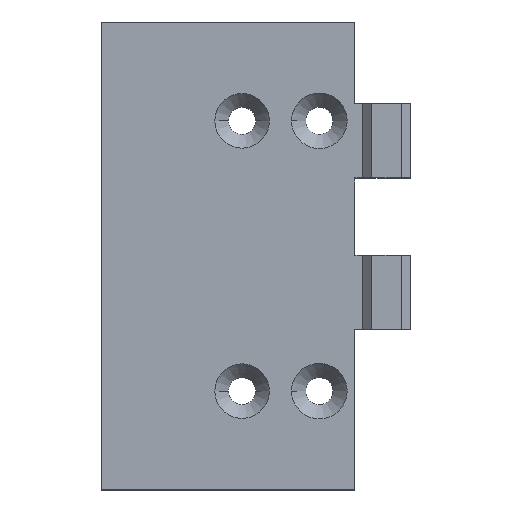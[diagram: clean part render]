
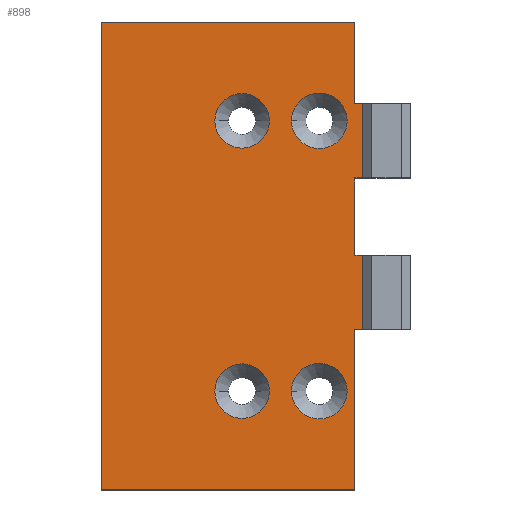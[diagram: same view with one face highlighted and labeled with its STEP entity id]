
A CAD part, top view. The second image highlights one B-rep face of the part: STEP entity #898.
In plain terms, the highlighted planar face has unit normal (0, 0, 1).
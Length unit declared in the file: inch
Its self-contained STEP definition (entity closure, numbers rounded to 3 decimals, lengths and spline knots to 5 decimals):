
#73=CARTESIAN_POINT('',(0.91,0.64,0.11));
#74=DIRECTION('',(0.,0.,1.));
#75=DIRECTION('',(-1.,0.,0.));
#76=AXIS2_PLACEMENT_3D('',#73,#74,#75);
#91=DIRECTION('',(0.,-1.,0.));
#92=VECTOR('',#91,0.53);
#93=CARTESIAN_POINT('',(1.64,3.03,0.11));
#94=LINE('',#93,#92);
#95=DIRECTION('',(-1.,0.,0.));
#96=VECTOR('',#95,0.05);
#97=CARTESIAN_POINT('',(1.69,2.5,0.11));
#98=LINE('',#97,#96);
#99=DIRECTION('',(0.,-1.,0.));
#100=VECTOR('',#99,0.48);
#101=CARTESIAN_POINT('',(1.69,2.5,0.11));
#102=LINE('',#101,#100);
#103=DIRECTION('',(-1.,0.,0.));
#104=VECTOR('',#103,0.05);
#105=CARTESIAN_POINT('',(1.69,2.02,0.11));
#106=LINE('',#105,#104);
#107=DIRECTION('',(0.,-1.,0.));
#108=VECTOR('',#107,0.5);
#109=CARTESIAN_POINT('',(1.64,2.02,0.11));
#110=LINE('',#109,#108);
#111=DIRECTION('',(-1.,0.,0.));
#112=VECTOR('',#111,0.05);
#113=CARTESIAN_POINT('',(1.69,1.52,0.11));
#114=LINE('',#113,#112);
#115=DIRECTION('',(0.,-1.,0.));
#116=VECTOR('',#115,0.48);
#117=CARTESIAN_POINT('',(1.69,1.52,0.11));
#118=LINE('',#117,#116);
#119=DIRECTION('',(-1.,0.,0.));
#120=VECTOR('',#119,0.05);
#121=CARTESIAN_POINT('',(1.69,1.04,0.11));
#122=LINE('',#121,#120);
#123=DIRECTION('',(0.,1.,0.));
#124=VECTOR('',#123,1.04);
#125=CARTESIAN_POINT('',(1.64,0.,0.11));
#126=LINE('',#125,#124);
#127=CARTESIAN_POINT('',(0.91,0.64,0.11));
#128=DIRECTION('',(0.,0.,1.));
#129=DIRECTION('',(1.,0.,0.));
#130=AXIS2_PLACEMENT_3D('',#127,#128,#129);
#137=CARTESIAN_POINT('',(0.91,2.39,0.11));
#138=DIRECTION('',(0.,0.,1.));
#139=DIRECTION('',(1.,0.,0.));
#140=AXIS2_PLACEMENT_3D('',#137,#138,#139);
#147=CARTESIAN_POINT('',(0.91,2.39,0.11));
#148=DIRECTION('',(0.,0.,1.));
#149=DIRECTION('',(-1.,0.,0.));
#150=AXIS2_PLACEMENT_3D('',#147,#148,#149);
#173=CARTESIAN_POINT('',(1.41,0.64,0.11));
#174=DIRECTION('',(0.,0.,1.));
#175=DIRECTION('',(1.,0.,0.));
#176=AXIS2_PLACEMENT_3D('',#173,#174,#175);
#183=CARTESIAN_POINT('',(1.41,0.64,0.11));
#184=DIRECTION('',(0.,0.,1.));
#185=DIRECTION('',(-1.,0.,0.));
#186=AXIS2_PLACEMENT_3D('',#183,#184,#185);
#209=CARTESIAN_POINT('',(1.41,2.39,0.11));
#210=DIRECTION('',(0.,0.,1.));
#211=DIRECTION('',(1.,0.,0.));
#212=AXIS2_PLACEMENT_3D('',#209,#210,#211);
#219=CARTESIAN_POINT('',(1.41,2.39,0.11));
#220=DIRECTION('',(0.,0.,1.));
#221=DIRECTION('',(-1.,0.,0.));
#222=AXIS2_PLACEMENT_3D('',#219,#220,#221);
#557=DIRECTION('',(1.,0.,0.));
#558=VECTOR('',#557,1.64);
#559=CARTESIAN_POINT('',(0.,0.,0.11));
#560=LINE('',#559,#558);
#561=DIRECTION('',(0.,-1.,0.));
#562=VECTOR('',#561,3.03);
#563=CARTESIAN_POINT('',(0.,3.03,0.11));
#564=LINE('',#563,#562);
#573=DIRECTION('',(1.,0.,0.));
#574=VECTOR('',#573,1.64);
#575=CARTESIAN_POINT('',(0.,3.03,0.11));
#576=LINE('',#575,#574);
#589=CARTESIAN_POINT('',(0.,3.03,0.11));
#590=CARTESIAN_POINT('',(0.,0.,0.11));
#591=VERTEX_POINT('',#589);
#592=VERTEX_POINT('',#590);
#593=CARTESIAN_POINT('',(1.0865,2.39,0.11));
#594=CARTESIAN_POINT('',(0.7335,2.39,0.11));
#595=VERTEX_POINT('',#593);
#596=VERTEX_POINT('',#594);
#601=CARTESIAN_POINT('',(1.0865,0.64,0.11));
#602=CARTESIAN_POINT('',(0.7335,0.64,0.11));
#603=VERTEX_POINT('',#601);
#604=VERTEX_POINT('',#602);
#625=CARTESIAN_POINT('',(1.59,2.39,0.11));
#626=CARTESIAN_POINT('',(1.23,2.39,0.11));
#627=VERTEX_POINT('',#625);
#628=VERTEX_POINT('',#626);
#633=CARTESIAN_POINT('',(1.59,0.64,0.11));
#634=CARTESIAN_POINT('',(1.23,0.64,0.11));
#635=VERTEX_POINT('',#633);
#636=VERTEX_POINT('',#634);
#701=CARTESIAN_POINT('',(1.64,0.,0.11));
#702=VERTEX_POINT('',#701);
#703=CARTESIAN_POINT('',(1.64,3.03,0.11));
#704=VERTEX_POINT('',#703);
#705=CARTESIAN_POINT('',(1.64,2.5,0.11));
#706=VERTEX_POINT('',#705);
#707=CARTESIAN_POINT('',(1.69,2.5,0.11));
#708=VERTEX_POINT('',#707);
#709=CARTESIAN_POINT('',(1.69,2.02,0.11));
#710=CARTESIAN_POINT('',(1.64,2.02,0.11));
#711=VERTEX_POINT('',#709);
#712=VERTEX_POINT('',#710);
#713=CARTESIAN_POINT('',(1.64,1.52,0.11));
#714=VERTEX_POINT('',#713);
#715=CARTESIAN_POINT('',(1.69,1.52,0.11));
#716=VERTEX_POINT('',#715);
#717=CARTESIAN_POINT('',(1.69,1.04,0.11));
#718=CARTESIAN_POINT('',(1.64,1.04,0.11));
#719=VERTEX_POINT('',#717);
#720=VERTEX_POINT('',#718);
#844=CARTESIAN_POINT('',(1.69,3.03,0.11));
#845=DIRECTION('',(0.,0.,-1.));
#846=DIRECTION('',(-1.,0.,0.));
#847=AXIS2_PLACEMENT_3D('',#844,#845,#846);
#848=PLANE('',#847);
#850=ORIENTED_EDGE('',*,*,#849,.T.);
#852=ORIENTED_EDGE('',*,*,#851,.F.);
#854=ORIENTED_EDGE('',*,*,#853,.T.);
#856=ORIENTED_EDGE('',*,*,#855,.T.);
#858=ORIENTED_EDGE('',*,*,#857,.T.);
#860=ORIENTED_EDGE('',*,*,#859,.F.);
#862=ORIENTED_EDGE('',*,*,#861,.T.);
#864=ORIENTED_EDGE('',*,*,#863,.T.);
#866=ORIENTED_EDGE('',*,*,#865,.F.);
#868=ORIENTED_EDGE('',*,*,#867,.F.);
#870=ORIENTED_EDGE('',*,*,#869,.F.);
#872=ORIENTED_EDGE('',*,*,#871,.T.);
#873=EDGE_LOOP('',(#850,#852,#854,#856,#858,#860,#862,#864,#866,#868,#870,
#872));
#874=FACE_OUTER_BOUND('',#873,.F.);
#876=ORIENTED_EDGE('',*,*,#875,.T.);
#878=ORIENTED_EDGE('',*,*,#877,.T.);
#879=EDGE_LOOP('',(#876,#878));
#880=FACE_BOUND('',#879,.F.);
#882=ORIENTED_EDGE('',*,*,#881,.T.);
#884=ORIENTED_EDGE('',*,*,#883,.T.);
#885=EDGE_LOOP('',(#882,#884));
#886=FACE_BOUND('',#885,.F.);
#888=ORIENTED_EDGE('',*,*,#887,.T.);
#890=ORIENTED_EDGE('',*,*,#889,.T.);
#891=EDGE_LOOP('',(#888,#890));
#892=FACE_BOUND('',#891,.F.);
#894=ORIENTED_EDGE('',*,*,#893,.T.);
#895=ORIENTED_EDGE('',*,*,#834,.T.);
#896=EDGE_LOOP('',(#894,#895));
#897=FACE_BOUND('',#896,.F.);
#898=ADVANCED_FACE('',(#874,#880,#886,#892,#897),#848,.F.);
#77=CIRCLE('',#76,0.1765);
#131=CIRCLE('',#130,0.1765);
#141=CIRCLE('',#140,0.1765);
#151=CIRCLE('',#150,0.1765);
#177=CIRCLE('',#176,0.18);
#187=CIRCLE('',#186,0.18);
#213=CIRCLE('',#212,0.18);
#223=CIRCLE('',#222,0.18);
#834=EDGE_CURVE('',#604,#603,#77,.T.);
#849=EDGE_CURVE('',#704,#706,#94,.T.);
#851=EDGE_CURVE('',#708,#706,#98,.T.);
#853=EDGE_CURVE('',#708,#711,#102,.T.);
#855=EDGE_CURVE('',#711,#712,#106,.T.);
#857=EDGE_CURVE('',#712,#714,#110,.T.);
#859=EDGE_CURVE('',#716,#714,#114,.T.);
#861=EDGE_CURVE('',#716,#719,#118,.T.);
#863=EDGE_CURVE('',#719,#720,#122,.T.);
#865=EDGE_CURVE('',#702,#720,#126,.T.);
#867=EDGE_CURVE('',#592,#702,#560,.T.);
#869=EDGE_CURVE('',#591,#592,#564,.T.);
#871=EDGE_CURVE('',#591,#704,#576,.T.);
#875=EDGE_CURVE('',#595,#596,#141,.T.);
#877=EDGE_CURVE('',#596,#595,#151,.T.);
#881=EDGE_CURVE('',#635,#636,#177,.T.);
#883=EDGE_CURVE('',#636,#635,#187,.T.);
#887=EDGE_CURVE('',#627,#628,#213,.T.);
#889=EDGE_CURVE('',#628,#627,#223,.T.);
#893=EDGE_CURVE('',#603,#604,#131,.T.);
